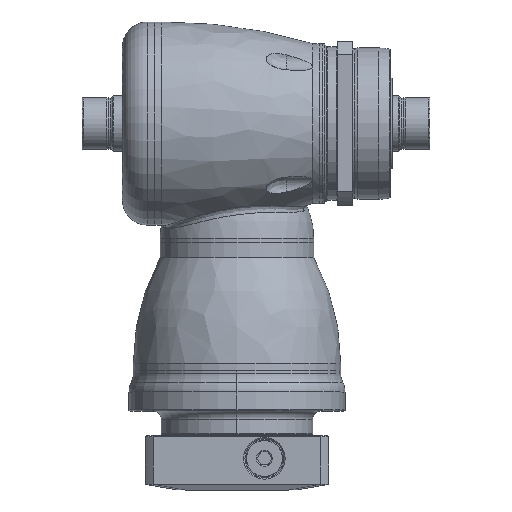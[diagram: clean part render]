
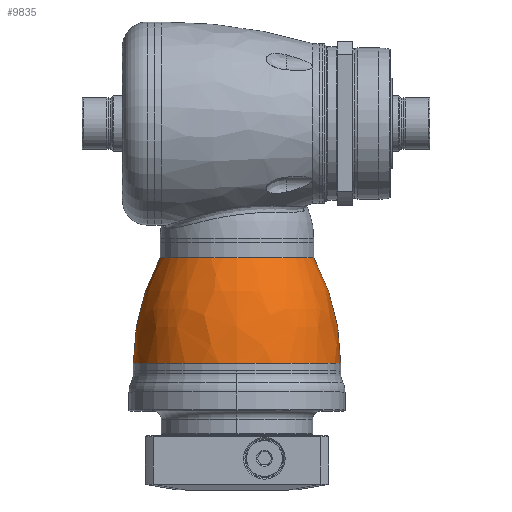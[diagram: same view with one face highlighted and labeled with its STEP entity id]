
A CAD part, top view. The second image highlights one B-rep face of the part: STEP entity #9835.
In plain terms, the highlighted free-form (B-spline) face has degree [3, 3] with [7, 4] control points.
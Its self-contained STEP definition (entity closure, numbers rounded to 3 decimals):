
#9664=CARTESIAN_POINT('',(-3.5,0.,0.));
#9665=DIRECTION('',(1.,0.,0.));
#9666=DIRECTION('',(0.,1.,0.));
#9667=AXIS2_PLACEMENT_3D('',#9664,#9665,#9666);
#9674=CARTESIAN_POINT('',(-52.388,0.,0.));
#9675=DIRECTION('',(-1.,0.,0.));
#9676=DIRECTION('',(0.,-1.,0.));
#9677=AXIS2_PLACEMENT_3D('',#9674,#9675,#9676);
#9679=CARTESIAN_POINT('',(-3.5,-54.29,0.));
#9680=DIRECTION('',(0.,0.,-1.));
#9681=DIRECTION('',(-0.478,0.878,0.));
#9682=AXIS2_PLACEMENT_3D('',#9679,#9680,#9681);
#9684=CARTESIAN_POINT('',(-3.5,54.29,0.));
#9685=DIRECTION('',(0.,0.,1.));
#9686=DIRECTION('',(-0.478,-0.878,0.));
#9687=AXIS2_PLACEMENT_3D('',#9684,#9685,#9686);
#9754=CARTESIAN_POINT('',(-3.5,48.,0.));
#9755=CARTESIAN_POINT('',(-3.5,-48.,0.));
#9756=VERTEX_POINT('',#9754);
#9757=VERTEX_POINT('',#9755);
#9762=CARTESIAN_POINT('',(-52.388,35.561,0.));
#9763=CARTESIAN_POINT('',(-52.388,-35.561,0.));
#9764=VERTEX_POINT('',#9762);
#9765=VERTEX_POINT('',#9763);
#9797=CARTESIAN_POINT('',(-2.481,-47.9,
-3.014));
#9798=CARTESIAN_POINT('',(-20.351,-48.078,
-3.025));
#9799=CARTESIAN_POINT('',(-37.67,-43.68,
-2.748));
#9800=CARTESIAN_POINT('',(-53.281,-35.,
-2.202));
#9801=CARTESIAN_POINT('',(-2.481,-49.755,
26.464));
#9802=CARTESIAN_POINT('',(-20.351,-49.939,
26.562));
#9803=CARTESIAN_POINT('',(-37.67,-45.371,
24.132));
#9804=CARTESIAN_POINT('',(-53.281,-36.355,
19.337));
#9805=CARTESIAN_POINT('',(-2.481,-29.536,
47.995));
#9806=CARTESIAN_POINT('',(-20.351,-29.646,
48.173));
#9807=CARTESIAN_POINT('',(-37.67,-26.934,
43.766));
#9808=CARTESIAN_POINT('',(-53.281,-21.581,
35.069));
#9809=CARTESIAN_POINT('',(-2.481,0.,
47.995));
#9810=CARTESIAN_POINT('',(-20.351,0.,
48.173));
#9811=CARTESIAN_POINT('',(-37.67,0.,
43.766));
#9812=CARTESIAN_POINT('',(-53.281,0.,
35.069));
#9813=CARTESIAN_POINT('',(-2.481,29.536,47.995));
#9814=CARTESIAN_POINT('',(-20.351,29.646,48.173));
#9815=CARTESIAN_POINT('',(-37.67,26.934,43.766));
#9816=CARTESIAN_POINT('',(-53.281,21.581,35.069));
#9817=CARTESIAN_POINT('',(-2.481,49.755,26.464));
#9818=CARTESIAN_POINT('',(-20.351,49.939,26.562));
#9819=CARTESIAN_POINT('',(-37.67,45.371,24.132));
#9820=CARTESIAN_POINT('',(-53.281,36.355,19.337));
#9821=CARTESIAN_POINT('',(-2.481,47.9,
-3.014));
#9822=CARTESIAN_POINT('',(-20.351,48.078,
-3.025));
#9823=CARTESIAN_POINT('',(-37.67,43.68,
-2.748));
#9824=CARTESIAN_POINT('',(-53.281,35.,
-2.202));
#9825=(BOUNDED_SURFACE()B_SPLINE_SURFACE(3,3,((#9797,#9798,#9799,#9800),(#9801,
#9802,#9803,#9804),(#9805,#9806,#9807,#9808),(#9809,#9810,#9811,#9812),(#9813,
#9814,#9815,#9816),(#9817,#9818,#9819,#9820),(#9821,#9822,#9823,#9824)),
.UNSPECIFIED.,.F.,.F.,.F.)B_SPLINE_SURFACE_WITH_KNOTS((4,3,4),(4,4),(0.,1.,
2.),(0.,1.),.UNSPECIFIED.)GEOMETRIC_REPRESENTATION_ITEM()RATIONAL_B_SPLINE_SURFACE(((1.207,1.181,1.181,1.207),(
0.953,0.932,0.932,0.953),(
0.953,0.932,0.932,0.953),(
1.207,1.181,1.181,1.207),(
0.953,0.932,0.932,0.953),(
0.953,0.932,0.932,0.953),(
1.207,1.181,1.181,1.207)))REPRESENTATION_ITEM('')SURFACE());
#9827=ORIENTED_EDGE('',*,*,#9826,.T.);
#9829=ORIENTED_EDGE('',*,*,#9828,.T.);
#9830=ORIENTED_EDGE('',*,*,#9787,.T.);
#9832=ORIENTED_EDGE('',*,*,#9831,.F.);
#9833=EDGE_LOOP('',(#9827,#9829,#9830,#9832));
#9834=FACE_OUTER_BOUND('',#9833,.F.);
#9835=ADVANCED_FACE('',(#9834),#9825,.T.);
#9668=CIRCLE('',#9667,48.);
#9678=CIRCLE('',#9677,35.561);
#9683=CIRCLE('',#9682,102.29);
#9688=CIRCLE('',#9687,102.29);
#9787=EDGE_CURVE('',#9756,#9757,#9668,.T.);
#9826=EDGE_CURVE('',#9765,#9764,#9678,.T.);
#9828=EDGE_CURVE('',#9764,#9756,#9683,.T.);
#9831=EDGE_CURVE('',#9765,#9757,#9688,.T.);
